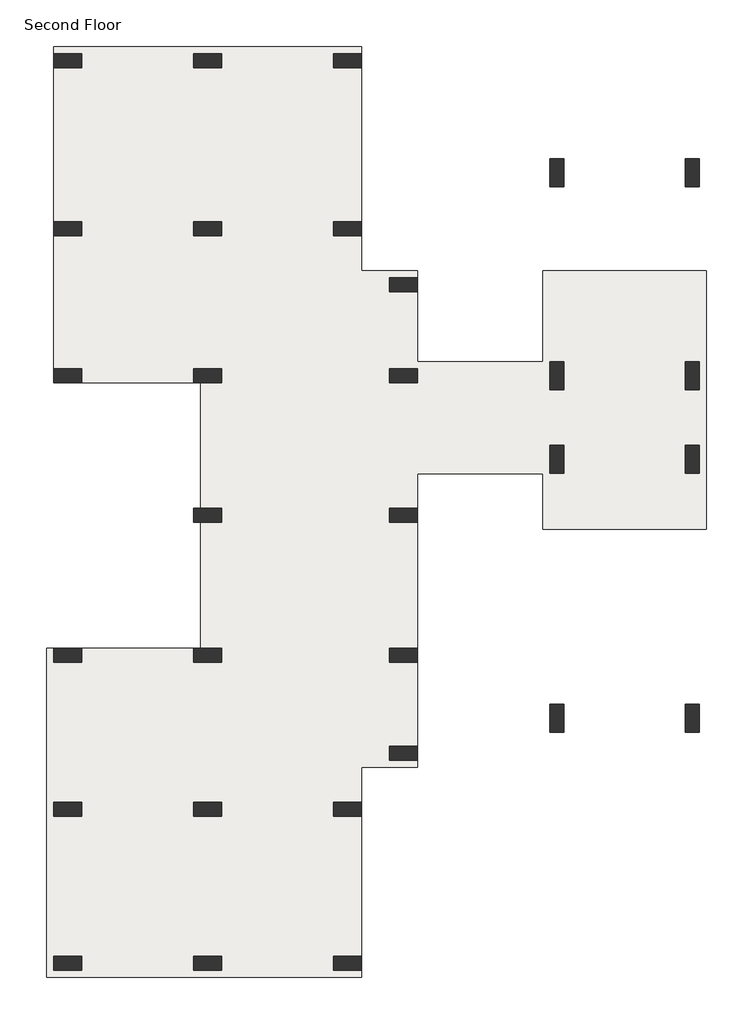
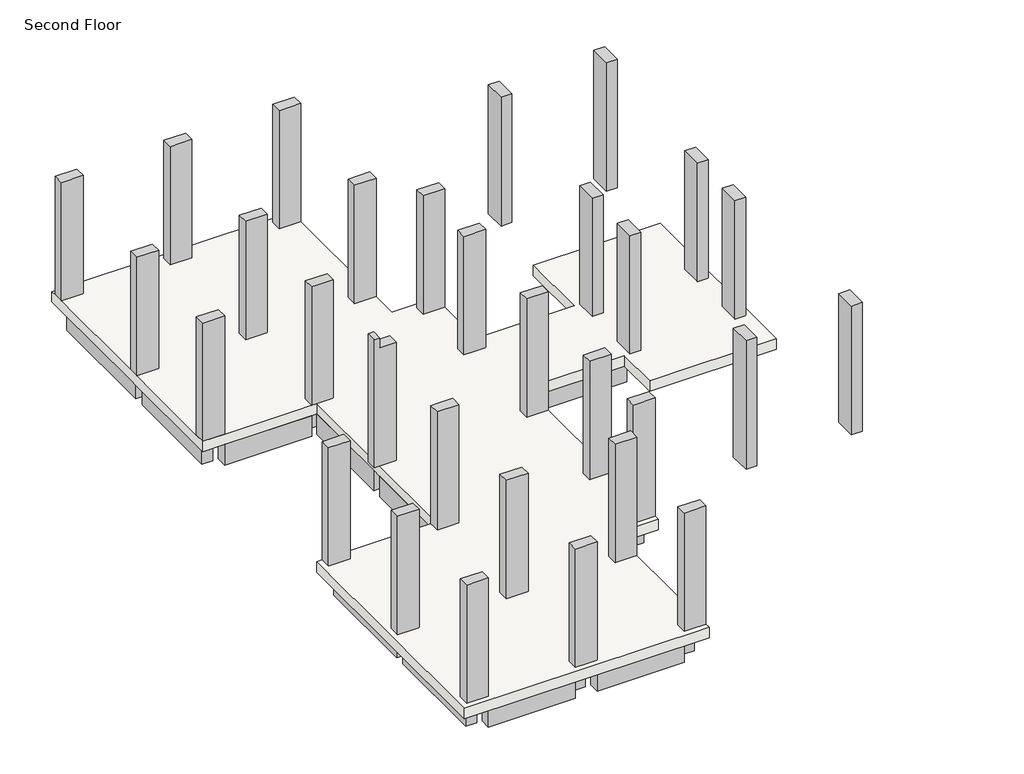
# One storey: 37 beams, 30 columns, 1 slab.
"""IFC4 building model written with IfcOpenShell, lengths in millimetres."""

from ifc_helpers import new_model, si_unit, frame, origin, place, context, project, spatial, polyline, outline, extrude, faceted_brep, element, save

model = new_model("IFC4")

# Units and contexts
model_context = context("Model", 3, world=origin())
ifc_project = project(units=[si_unit("LENGTHUNIT", "METRE", prefix="MILLI")], contexts=[model_context])

# Site, building, storey
site = spatial("IfcSite", under=ifc_project)
building = spatial("IfcBuilding", under=site)
storey = spatial("IfcBuildingStorey", under=building, Name="Second Floor", Elevation=3810.0)

# Beams
placement = place(None, origin())
element("IfcBeam", 1, ObjectType="Concrete-Rectangular Beam : 12 x 24", at=placement, inside=storey, context=model_context, shape_type="SweptSolid", body=[
    extrude(outline(polyline([(-28276.2572388, 22716.8740068), (-28276.2572388, 23021.6740068), (-25837.8572388, 23021.6740068), (-25837.8572388, 22716.8740068), (-28276.2572388, 22716.8740068)])), frame((0.0, 0.0, 2895.6), z_axis=(0.0, 0.0, 1.0), x_axis=(1.0, 0.0, 0.0)), (0.0, 0.0, 1.0), 609.6),
])
element("IfcBeam", 2, ObjectType="Concrete-Rectangular Beam : 12 x 24", at=placement, inside=storey, context=model_context, shape_type="SweptSolid", body=[
    extrude(outline(polyline([(-25228.2572388, 22716.8740068), (-25228.2572388, 23021.6740068), (-22789.8572388, 23021.6740068), (-22789.8572388, 22716.8740068), (-25228.2572388, 22716.8740068)])), frame((0.0, 0.0, 2895.6), z_axis=(0.0, 0.0, 1.0), x_axis=(1.0, 0.0, 0.0)), (0.0, 0.0, 1.0), 609.6),
])
element("IfcBeam", 3, ObjectType="Concrete-Rectangular Beam : 12 x 24", at=placement, inside=storey, context=model_context, shape_type="SweptSolid", body=[
    extrude(outline(polyline([(-22637.4572388, 22716.8740068), (-22332.6572388, 22716.8740068), (-22332.6572388, 19364.0740068), (-22637.4572388, 19364.0740068), (-22637.4572388, 22716.8740068)])), frame((0.0, 0.0, 2895.6), z_axis=(0.0, 0.0, 1.0), x_axis=(1.0, 0.0, 0.0)), (0.0, 0.0, 1.0), 609.6),
])
element("IfcBeam", 4, ObjectType="Concrete-Rectangular Beam : 12 x 24", at=placement, inside=storey, context=model_context, shape_type="SweptSolid", body=[
    extrude(outline(polyline([(-25228.2572388, 19059.2740068), (-25228.2572388, 19364.0740068), (-22789.8572388, 19364.0740068), (-22789.8572388, 19059.2740068), (-25228.2572388, 19059.2740068)])), frame((0.0, 0.0, 2895.6), z_axis=(0.0, 0.0, 1.0), x_axis=(1.0, 0.0, 0.0)), (0.0, 0.0, 1.0), 609.6),
])
element("IfcBeam", 5, ObjectType="Concrete-Rectangular Beam : 12 x 24", at=placement, inside=storey, context=model_context, shape_type="SweptSolid", body=[
    extrude(outline(polyline([(-25380.6572388, 22716.8740068), (-25380.6572388, 19364.0740068), (-25685.4572388, 19364.0740068), (-25685.4572388, 22716.8740068), (-25380.6572388, 22716.8740068)])), frame((0.0, 0.0, 2895.6), z_axis=(0.0, 0.0, 1.0), x_axis=(1.0, 0.0, 0.0)), (0.0, 0.0, 1.0), 609.6),
])
element("IfcBeam", 6, ObjectType="Concrete-Rectangular Beam : 12 x 24", at=placement, inside=storey, context=model_context, shape_type="SweptSolid", body=[
    extrude(outline(polyline([(-28276.2572388, 19059.2740068), (-28276.2572388, 19364.0740068), (-25837.8572388, 19364.0740068), (-25837.8572388, 19059.2740068), (-28276.2572388, 19059.2740068)])), frame((0.0, 0.0, 2895.6), z_axis=(0.0, 0.0, 1.0), x_axis=(1.0, 0.0, 0.0)), (0.0, 0.0, 1.0), 609.6),
])
element("IfcBeam", 7, ObjectType="Concrete-Rectangular Beam : 12 x 24", at=placement, inside=storey, context=model_context, shape_type="SweptSolid", body=[
    extrude(outline(polyline([(-28733.4572388, 22716.8740068), (-28428.6572388, 22716.8740068), (-28428.6572388, 19364.0740068), (-28733.4572388, 19364.0740068), (-28733.4572388, 22716.8740068)])), frame((0.0, 0.0, 2895.6), z_axis=(0.0, 0.0, 1.0), x_axis=(1.0, 0.0, 0.0)), (0.0, 0.0, 1.0), 609.6),
])
element("IfcBeam", 8, ObjectType="Concrete-Rectangular Beam : 12 x 24", at=placement, inside=storey, context=model_context, shape_type="SweptSolid", body=[
    extrude(outline(polyline([(-28733.4572388, 19059.2740068), (-28428.6572388, 19059.2740068), (-28428.6572388, 16163.6740068), (-28733.4572388, 16163.6740068), (-28733.4572388, 19059.2740068)])), frame((0.0, 0.0, 2895.6), z_axis=(0.0, 0.0, 1.0), x_axis=(1.0, 0.0, 0.0)), (0.0, 0.0, 1.0), 609.6),
])
element("IfcBeam", 9, ObjectType="Concrete-Rectangular Beam : 12 x 24", at=placement, inside=storey, context=model_context, shape_type="SweptSolid", body=[
    extrude(outline(polyline([(-28276.2572388, 15858.8740068), (-28276.2572388, 16163.6740068), (-25837.8572388, 16163.6740068), (-25837.8572388, 15858.8740068), (-28276.2572388, 15858.8740068)])), frame((0.0, 0.0, 2895.6), z_axis=(0.0, 0.0, 1.0), x_axis=(1.0, 0.0, 0.0)), (0.0, 0.0, 1.0), 609.6),
])
element("IfcBeam", 10, ObjectType="Concrete-Rectangular Beam : 12 x 24", at=placement, inside=storey, context=model_context, shape_type="SweptSolid", body=[
    extrude(outline(polyline([(-25685.4572388, 19059.2740068), (-25380.6572388, 19059.2740068), (-25380.6572388, 16163.6740068), (-25685.4572388, 16163.6740068), (-25685.4572388, 19059.2740068)])), frame((0.0, 0.0, 2895.6), z_axis=(0.0, 0.0, 1.0), x_axis=(1.0, 0.0, 0.0)), (0.0, 0.0, 1.0), 609.6),
])
element("IfcBeam", 11, ObjectType="Concrete-Rectangular Beam : 12 x 24", at=placement, inside=storey, context=model_context, shape_type="SweptSolid", body=[
    extrude(outline(polyline([(-25228.2572388, 15858.8740068), (-25228.2572388, 16163.6740068), (-21570.6572388, 16163.6740068), (-21570.6572388, 15858.8740068), (-25228.2572388, 15858.8740068)])), frame((0.0, 0.0, 2895.6), z_axis=(0.0, 0.0, 1.0), x_axis=(1.0, 0.0, 0.0)), (0.0, 0.0, 1.0), 609.6),
])
element("IfcBeam", 12, ObjectType="Concrete-Rectangular Beam : 12 x 24", at=placement, inside=storey, context=model_context, shape_type="SweptSolid", body=[
    extrude(outline(polyline([(-21418.2572388, 17840.0740068), (-21113.4572388, 17840.0740068), (-21113.4572388, 16163.6740068), (-21418.2572388, 16163.6740068), (-21418.2572388, 17840.0740068)])), frame((0.0, 0.0, 2895.6), z_axis=(0.0, 0.0, 1.0), x_axis=(1.0, 0.0, 0.0)), (0.0, 0.0, 1.0), 609.6),
])
element("IfcBeam", 13, ObjectType="Concrete-Rectangular Beam : 12 x 24", at=placement, inside=storey, context=model_context, shape_type="Brep", body=[
    faceted_brep([(-22637.4572388, 18144.8740068, 3505.2), (-22637.4572388, 17840.0740068, 3505.2), (-21570.6572388, 17840.0740068, 3505.2), (-21570.6572388, 18144.8740068, 3505.2), (-22332.6572388, 18144.8740068, 3505.2), (-22637.4572388, 18144.8740068, 2895.6), (-21570.6572388, 18144.8740068, 2895.6), (-22332.6572388, 18144.8740068, 2895.6), (-22637.4572388, 17840.0740068, 2895.6), (-21570.6572388, 17840.0740068, 2895.6)], [[[0, 1, 2, 3, 4]], [[5, 0, 4, 3, 6, 7]], [[8, 5, 7, 6, 9]], [[1, 8, 9, 2]], [[3, 2, 9, 6]], [[1, 0, 5, 8]]]),
])
element("IfcBeam", 14, ObjectType="Concrete-Rectangular Beam : 12 x 24", at=placement, inside=storey, context=model_context, shape_type="SweptSolid", body=[
    extrude(outline(polyline([(-22637.4572388, 19059.2740068), (-22332.6572388, 19059.2740068), (-22332.6572388, 18144.8740068), (-22637.4572388, 18144.8740068), (-22637.4572388, 19059.2740068)])), frame((0.0, 0.0, 2895.6), z_axis=(0.0, 0.0, 1.0), x_axis=(1.0, 0.0, 0.0)), (0.0, 0.0, 1.0), 609.6),
])
element("IfcBeam", 15, ObjectType="Concrete-Rectangular Beam : 12 x 24", at=placement, inside=storey, context=model_context, shape_type="SweptSolid", body=[
    extrude(outline(polyline([(-20961.0572388, 15858.8740068), (-20961.0572388, 16163.6740068), (-18065.4572388, 16163.6740068), (-18065.4572388, 15858.8740068), (-20961.0572388, 15858.8740068)])), frame((0.0, 0.0, 2895.6), z_axis=(0.0, 0.0, 1.0), x_axis=(1.0, 0.0, 0.0)), (0.0, 0.0, 1.0), 609.6),
])
element("IfcBeam", 16, ObjectType="Concrete-Rectangular Beam : 12 x 24", at=placement, inside=storey, context=model_context, shape_type="SweptSolid", body=[
    extrude(outline(polyline([(-17760.6572388, 15858.8740068), (-17760.6572388, 16163.6740068), (-15119.0572388, 16163.6740068), (-15119.0572388, 15858.8740068), (-17760.6572388, 15858.8740068)])), frame((0.0, 0.0, 2895.6), z_axis=(0.0, 0.0, 1.0), x_axis=(1.0, 0.0, 0.0)), (0.0, 0.0, 1.0), 609.6),
])
element("IfcBeam", 17, ObjectType="Concrete-Rectangular Beam : 12 x 24", at=placement, inside=storey, context=model_context, shape_type="Brep", body=[
    faceted_brep([(-21113.4572388, 15858.8740068, 3505.2), (-21418.2572388, 15858.8740068, 3505.2), (-21418.2572388, 13115.6740068, 3505.2), (-21113.4572388, 13115.6740068, 3505.2), (-21113.4572388, 14030.0740068, 3505.2), (-21113.4572388, 14334.8740068, 3505.2), (-21113.4572388, 15858.8740068, 2895.6), (-21113.4572388, 13115.6740068, 2895.6), (-21113.4572388, 14030.0740068, 2895.6), (-21113.4572388, 14334.8740068, 2895.6), (-21418.2572388, 15858.8740068, 2895.6), (-21418.2572388, 13115.6740068, 2895.6)], [[[0, 1, 2, 3, 4, 5]], [[6, 0, 5, 4, 3, 7, 8, 9]], [[10, 6, 9, 8, 7, 11]], [[1, 10, 11, 2]], [[10, 1, 0, 6]], [[3, 2, 11, 7]]]),
])
element("IfcBeam", 18, ObjectType="Concrete-Rectangular Beam : 12 x 24", at=placement, inside=storey, context=model_context, shape_type="SweptSolid", body=[
    extrude(outline(polyline([(-18065.4572388, 14334.8740068), (-18065.4572388, 14030.0740068), (-21113.4572388, 14030.0740068), (-21113.4572388, 14334.8740068), (-18065.4572388, 14334.8740068)])), frame((0.0, 0.0, 2895.6), z_axis=(0.0, 0.0, 1.0), x_axis=(1.0, 0.0, 0.0)), (0.0, 0.0, 1.0), 609.6),
])
element("IfcBeam", 19, ObjectType="Concrete-Rectangular Beam : 12 x 24", at=placement, inside=storey, context=model_context, shape_type="SweptSolid", body=[
    extrude(outline(polyline([(-17760.6572388, 14030.0740068), (-17760.6572388, 14334.8740068), (-15119.0572388, 14334.8740068), (-15119.0572388, 14030.0740068), (-17760.6572388, 14030.0740068)])), frame((0.0, 0.0, 2895.6), z_axis=(0.0, 0.0, 1.0), x_axis=(1.0, 0.0, 0.0)), (0.0, 0.0, 1.0), 609.6),
])
element("IfcBeam", 20, ObjectType="Concrete-Rectangular Beam : 12 x 24", at=placement, inside=storey, context=model_context, shape_type="SweptSolid", body=[
    extrude(outline(polyline([(-25685.4572388, 15858.8740068), (-25380.6572388, 15858.8740068), (-25380.6572388, 13115.6740068), (-25685.4572388, 13115.6740068), (-25685.4572388, 15858.8740068)])), frame((0.0, 0.0, 2895.6), z_axis=(0.0, 0.0, 1.0), x_axis=(1.0, 0.0, 0.0)), (0.0, 0.0, 1.0), 609.6),
])
element("IfcBeam", 21, ObjectType="Concrete-Rectangular Beam : 12 x 24", at=placement, inside=storey, context=model_context, shape_type="SweptSolid", body=[
    extrude(outline(polyline([(-25228.2572388, 12810.8740068), (-25228.2572388, 13115.6740068), (-21570.6572388, 13115.6740068), (-21570.6572388, 12810.8740068), (-25228.2572388, 12810.8740068)])), frame((0.0, 0.0, 2895.6), z_axis=(0.0, 0.0, 1.0), x_axis=(1.0, 0.0, 0.0)), (0.0, 0.0, 1.0), 609.6),
])
element("IfcBeam", 22, ObjectType="Concrete-Rectangular Beam : 12 x 24", at=placement, inside=storey, context=model_context, shape_type="SweptSolid", body=[
    extrude(outline(polyline([(-25685.4572388, 12810.8740068), (-25380.6572388, 12810.8740068), (-25380.6572388, 10067.6740068), (-25685.4572388, 10067.6740068), (-25685.4572388, 12810.8740068)])), frame((0.0, 0.0, 2895.6), z_axis=(0.0, 0.0, 1.0), x_axis=(1.0, 0.0, 0.0)), (0.0, 0.0, 1.0), 609.6),
])
element("IfcBeam", 23, ObjectType="Concrete-Rectangular Beam : 12 x 24", at=placement, inside=storey, context=model_context, shape_type="SweptSolid", body=[
    extrude(outline(polyline([(-25228.2572388, 9762.8740068), (-25228.2572388, 10067.6740068), (-21570.6572388, 10067.6740068), (-21570.6572388, 9762.8740068), (-25228.2572388, 9762.8740068)])), frame((0.0, 0.0, 2895.6), z_axis=(0.0, 0.0, 1.0), x_axis=(1.0, 0.0, 0.0)), (0.0, 0.0, 1.0), 609.6),
])
element("IfcBeam", 24, ObjectType="Concrete-Rectangular Beam : 12 x 24", at=placement, inside=storey, context=model_context, shape_type="SweptSolid", body=[
    extrude(outline(polyline([(-21113.4572388, 10067.6740068), (-21418.2572388, 10067.6740068), (-21418.2572388, 12810.8740068), (-21113.4572388, 12810.8740068), (-21113.4572388, 10067.6740068)])), frame((0.0, 0.0, 2895.6), z_axis=(0.0, 0.0, 1.0), x_axis=(1.0, 0.0, 0.0)), (0.0, 0.0, 1.0), 609.6),
])
element("IfcBeam", 25, ObjectType="Concrete-Rectangular Beam : 12 x 24", at=placement, inside=storey, context=model_context, shape_type="SweptSolid", body=[
    extrude(outline(polyline([(-28276.2572388, 9762.8740068), (-28276.2572388, 10067.6740068), (-25837.8572388, 10067.6740068), (-25837.8572388, 9762.8740068), (-28276.2572388, 9762.8740068)])), frame((0.0, 0.0, 2895.6), z_axis=(0.0, 0.0, 1.0), x_axis=(1.0, 0.0, 0.0)), (0.0, 0.0, 1.0), 609.6),
])
element("IfcBeam", 26, ObjectType="Concrete-Rectangular Beam : 12 x 24", at=placement, inside=storey, context=model_context, shape_type="SweptSolid", body=[
    extrude(outline(polyline([(-28733.4572388, 9762.8740068), (-28428.6572388, 9762.8740068), (-28428.6572388, 6714.8740068), (-28733.4572388, 6714.8740068), (-28733.4572388, 9762.8740068)])), frame((0.0, 0.0, 2895.6), z_axis=(0.0, 0.0, 1.0), x_axis=(1.0, 0.0, 0.0)), (0.0, 0.0, 1.0), 609.6),
])
element("IfcBeam", 27, ObjectType="Concrete-Rectangular Beam : 12 x 24", at=placement, inside=storey, context=model_context, shape_type="SweptSolid", body=[
    extrude(outline(polyline([(-28276.2572388, 6410.0740068), (-28276.2572388, 6714.8740068), (-25837.8572388, 6714.8740068), (-25837.8572388, 6410.0740068), (-28276.2572388, 6410.0740068)])), frame((0.0, 0.0, 2895.6), z_axis=(0.0, 0.0, 1.0), x_axis=(1.0, 0.0, 0.0)), (0.0, 0.0, 1.0), 609.6),
])
element("IfcBeam", 28, ObjectType="Concrete-Rectangular Beam : 12 x 24", at=placement, inside=storey, context=model_context, shape_type="SweptSolid", body=[
    extrude(outline(polyline([(-25685.4572388, 9762.8740068), (-25380.6572388, 9762.8740068), (-25380.6572388, 6714.8740068), (-25685.4572388, 6714.8740068), (-25685.4572388, 9762.8740068)])), frame((0.0, 0.0, 2895.6), z_axis=(0.0, 0.0, 1.0), x_axis=(1.0, 0.0, 0.0)), (0.0, 0.0, 1.0), 609.6),
])
element("IfcBeam", 29, ObjectType="Concrete-Rectangular Beam : 12 x 24", at=placement, inside=storey, context=model_context, shape_type="SweptSolid", body=[
    extrude(outline(polyline([(-25228.2572388, 6410.0740068), (-25228.2572388, 6714.8740068), (-22789.8572388, 6714.8740068), (-22789.8572388, 6410.0740068), (-25228.2572388, 6410.0740068)])), frame((0.0, 0.0, 2895.6), z_axis=(0.0, 0.0, 1.0), x_axis=(1.0, 0.0, 0.0)), (0.0, 0.0, 1.0), 609.6),
])
element("IfcBeam", 30, ObjectType="Concrete-Rectangular Beam : 12 x 24", at=placement, inside=storey, context=model_context, shape_type="SweptSolid", body=[
    extrude(outline(polyline([(-21418.2572388, 9762.8740068), (-21113.4572388, 9762.8740068), (-21113.4572388, 7934.0740068), (-21418.2572388, 7934.0740068), (-21418.2572388, 9762.8740068)])), frame((0.0, 0.0, 2895.6), z_axis=(0.0, 0.0, 1.0), x_axis=(1.0, 0.0, 0.0)), (0.0, 0.0, 1.0), 609.6),
])
element("IfcBeam", 31, ObjectType="Concrete-Rectangular Beam : 12 x 24", at=placement, inside=storey, context=model_context, shape_type="Brep", body=[
    faceted_brep([(-22637.4572388, 7934.0740068, 3505.2), (-22637.4572388, 7629.2740068, 3505.2), (-22332.6572388, 7629.2740068, 3505.2), (-21570.6572388, 7629.2740068, 3505.2), (-21570.6572388, 7934.0740068, 3505.2), (-22637.4572388, 7934.0740068, 2895.6), (-21570.6572388, 7934.0740068, 2895.6), (-22637.4572388, 7629.2740068, 2895.6), (-21570.6572388, 7629.2740068, 2895.6), (-22332.6572388, 7629.2740068, 2895.6)], [[[0, 1, 2, 3, 4]], [[5, 0, 4, 6]], [[7, 5, 6, 8, 9]], [[1, 7, 9, 8, 3, 2]], [[4, 3, 8, 6]], [[1, 0, 5, 7]]]),
])
element("IfcBeam", 32, ObjectType="Concrete-Rectangular Beam : 12 x 24", at=placement, inside=storey, context=model_context, shape_type="SweptSolid", body=[
    extrude(outline(polyline([(-22332.6572388, 6714.8740068), (-22637.4572388, 6714.8740068), (-22637.4572388, 7629.2740068), (-22332.6572388, 7629.2740068), (-22332.6572388, 6714.8740068)])), frame((0.0, 0.0, 2895.6), z_axis=(0.0, 0.0, 1.0), x_axis=(1.0, 0.0, 0.0)), (0.0, 0.0, 1.0), 609.6),
])
element("IfcBeam", 33, ObjectType="Concrete-Rectangular Beam : 12 x 24", at=placement, inside=storey, context=model_context, shape_type="SweptSolid", body=[
    extrude(outline(polyline([(-22637.4572388, 6410.0740068), (-22332.6572388, 6410.0740068), (-22332.6572388, 3362.0740068), (-22637.4572388, 3362.0740068), (-22637.4572388, 6410.0740068)])), frame((0.0, 0.0, 2895.6), z_axis=(0.0, 0.0, 1.0), x_axis=(1.0, 0.0, 0.0)), (0.0, 0.0, 1.0), 609.6),
])
element("IfcBeam", 34, ObjectType="Concrete-Rectangular Beam : 12 x 24", at=placement, inside=storey, context=model_context, shape_type="SweptSolid", body=[
    extrude(outline(polyline([(-25228.2572388, 3057.2740068), (-25228.2572388, 3362.0740068), (-22789.8572388, 3362.0740068), (-22789.8572388, 3057.2740068), (-25228.2572388, 3057.2740068)])), frame((0.0, 0.0, 2895.6), z_axis=(0.0, 0.0, 1.0), x_axis=(1.0, 0.0, 0.0)), (0.0, 0.0, 1.0), 609.6),
])
element("IfcBeam", 35, ObjectType="Concrete-Rectangular Beam : 12 x 24", at=placement, inside=storey, context=model_context, shape_type="SweptSolid", body=[
    extrude(outline(polyline([(-25685.4572388, 6410.0740068), (-25380.6572388, 6410.0740068), (-25380.6572388, 3362.0740068), (-25685.4572388, 3362.0740068), (-25685.4572388, 6410.0740068)])), frame((0.0, 0.0, 2895.6), z_axis=(0.0, 0.0, 1.0), x_axis=(1.0, 0.0, 0.0)), (0.0, 0.0, 1.0), 609.6),
])
element("IfcBeam", 36, ObjectType="Concrete-Rectangular Beam : 12 x 24", at=placement, inside=storey, context=model_context, shape_type="SweptSolid", body=[
    extrude(outline(polyline([(-28733.4572388, 6410.0740068), (-28428.6572388, 6410.0740068), (-28428.6572388, 3362.0740068), (-28733.4572388, 3362.0740068), (-28733.4572388, 6410.0740068)])), frame((0.0, 0.0, 2895.6), z_axis=(0.0, 0.0, 1.0), x_axis=(1.0, 0.0, 0.0)), (0.0, 0.0, 1.0), 609.6),
])
element("IfcBeam", 37, ObjectType="Concrete-Rectangular Beam : 12 x 24", at=placement, inside=storey, context=model_context, shape_type="SweptSolid", body=[
    extrude(outline(polyline([(-28276.2572388, 3057.2740068), (-28276.2572388, 3362.0740068), (-25837.8572388, 3362.0740068), (-25837.8572388, 3057.2740068), (-28276.2572388, 3057.2740068)])), frame((0.0, 0.0, 2895.6), z_axis=(0.0, 0.0, 1.0), x_axis=(1.0, 0.0, 0.0)), (0.0, 0.0, 1.0), 609.6),
])

# Columns
element("IfcColumn", 38, ObjectType="Concrete-Rectangular-Column : 12 x 24", at=placement, inside=storey, context=model_context, shape_type="SweptSolid", body=[
    extrude(outline(polyline([(-28885.8572388, 23021.6740068), (-28276.2572388, 23021.6740068), (-28276.2572388, 22716.8740068), (-28885.8572388, 22716.8740068), (-28885.8572388, 23021.6740068)])), frame((0.0, 0.0, 3810.0), z_axis=(0.0, 0.0, 1.0), x_axis=(1.0, 0.0, 0.0)), (0.0, 0.0, 1.0), 3505.2),
])
element("IfcColumn", 39, ObjectType="Concrete-Rectangular-Column : 12 x 24", at=placement, inside=storey, context=model_context, shape_type="SweptSolid", body=[
    extrude(outline(polyline([(-25837.8572388, 23021.6740068), (-25228.2572388, 23021.6740068), (-25228.2572388, 22716.8740068), (-25837.8572388, 22716.8740068), (-25837.8572388, 23021.6740068)])), frame((0.0, 0.0, 3810.0), z_axis=(0.0, 0.0, 1.0), x_axis=(1.0, 0.0, 0.0)), (0.0, 0.0, 1.0), 3505.2),
])
element("IfcColumn", 40, ObjectType="Concrete-Rectangular-Column : 12 x 24", at=placement, inside=storey, context=model_context, shape_type="SweptSolid", body=[
    extrude(outline(polyline([(-22789.8572388, 23021.6740068), (-22180.2572388, 23021.6740068), (-22180.2572388, 22716.8740068), (-22789.8572388, 22716.8740068), (-22789.8572388, 23021.6740068)])), frame((0.0, 0.0, 3810.0), z_axis=(0.0, 0.0, 1.0), x_axis=(1.0, 0.0, 0.0)), (0.0, 0.0, 1.0), 3505.2),
])
element("IfcColumn", 41, ObjectType="Concrete-Rectangular-Column : 12 x 24", at=placement, inside=storey, context=model_context, shape_type="SweptSolid", body=[
    extrude(outline(polyline([(-28885.8572388, 19364.0740068), (-28276.2572388, 19364.0740068), (-28276.2572388, 19059.2740068), (-28885.8572388, 19059.2740068), (-28885.8572388, 19364.0740068)])), frame((0.0, 0.0, 3810.0), z_axis=(0.0, 0.0, 1.0), x_axis=(1.0, 0.0, 0.0)), (0.0, 0.0, 1.0), 3505.2),
])
element("IfcColumn", 42, ObjectType="Concrete-Rectangular-Column : 12 x 24", at=placement, inside=storey, context=model_context, shape_type="SweptSolid", body=[
    extrude(outline(polyline([(-25837.8572388, 19364.0740068), (-25228.2572388, 19364.0740068), (-25228.2572388, 19059.2740068), (-25837.8572388, 19059.2740068), (-25837.8572388, 19364.0740068)])), frame((0.0, 0.0, 3810.0), z_axis=(0.0, 0.0, 1.0), x_axis=(1.0, 0.0, 0.0)), (0.0, 0.0, 1.0), 3505.2),
])
element("IfcColumn", 43, ObjectType="Concrete-Rectangular-Column : 12 x 24", at=placement, inside=storey, context=model_context, shape_type="SweptSolid", body=[
    extrude(outline(polyline([(-22789.8572388, 19364.0740068), (-22180.2572388, 19364.0740068), (-22180.2572388, 19059.2740068), (-22789.8572388, 19059.2740068), (-22789.8572388, 19364.0740068)])), frame((0.0, 0.0, 3810.0), z_axis=(0.0, 0.0, 1.0), x_axis=(1.0, 0.0, 0.0)), (0.0, 0.0, 1.0), 3505.2),
])
element("IfcColumn", 44, ObjectType="Concrete-Rectangular-Column : 12 x 24", at=placement, inside=storey, context=model_context, shape_type="SweptSolid", body=[
    extrude(outline(polyline([(-21570.6572388, 18144.8740068), (-20961.0572388, 18144.8740068), (-20961.0572388, 17840.0740068), (-21570.6572388, 17840.0740068), (-21570.6572388, 18144.8740068)])), frame((0.0, 0.0, 3810.0), z_axis=(0.0, 0.0, 1.0), x_axis=(1.0, 0.0, 0.0)), (0.0, 0.0, 1.0), 3505.2),
])
element("IfcColumn", 45, ObjectType="Concrete-Rectangular-Column : 12 x 24", at=placement, inside=storey, context=model_context, shape_type="SweptSolid", body=[
    extrude(outline(polyline([(-28885.8572388, 16163.6740068), (-28276.2572388, 16163.6740068), (-28276.2572388, 15858.8740068), (-28885.8572388, 15858.8740068), (-28885.8572388, 16163.6740068)])), frame((0.0, 0.0, 3810.0), z_axis=(0.0, 0.0, 1.0), x_axis=(1.0, 0.0, 0.0)), (0.0, 0.0, 1.0), 3505.2),
])
element("IfcColumn", 46, ObjectType="Concrete-Rectangular-Column : 12 x 24", at=placement, inside=storey, context=model_context, shape_type="Brep", body=[
    faceted_brep([(-25837.8572388, 16163.6740068, 3810.0), (-25228.2572388, 16163.6740068, 3810.0), (-25228.2572388, 15858.8740068, 3810.0), (-25685.4572388, 15858.8740068, 3810.0), (-25837.8572388, 15858.8740068, 3810.0), (-25837.8572388, 16163.6740068, 7315.2), (-25228.2572388, 16163.6740068, 7315.2), (-25228.2572388, 15858.8740068, 7315.2), (-25685.4572388, 15858.8740068, 7315.2), (-25837.8572388, 15858.8740068, 7315.2)], [[[0, 1, 2, 3, 4]], [[1, 0, 5, 6]], [[2, 1, 6, 7]], [[4, 3, 2, 7, 8, 9]], [[0, 4, 9, 5]], [[6, 5, 9, 8, 7]]]),
])
element("IfcColumn", 47, ObjectType="Concrete-Rectangular-Column : 12 x 24", at=placement, inside=storey, context=model_context, shape_type="SweptSolid", body=[
    extrude(outline(polyline([(-21570.6572388, 16163.6740068), (-20961.0572388, 16163.6740068), (-20961.0572388, 15858.8740068), (-21570.6572388, 15858.8740068), (-21570.6572388, 16163.6740068)])), frame((0.0, 0.0, 3810.0), z_axis=(0.0, 0.0, 1.0), x_axis=(1.0, 0.0, 0.0)), (0.0, 0.0, 1.0), 3505.2),
])
element("IfcColumn", 48, ObjectType="Concrete-Rectangular-Column : 12 x 24", at=placement, inside=storey, context=model_context, shape_type="SweptSolid", body=[
    extrude(outline(polyline([(-18065.4572388, 15706.4740068), (-18065.4572388, 16316.0740068), (-17760.6572388, 16316.0740068), (-17760.6572388, 15706.4740068), (-18065.4572388, 15706.4740068)])), frame((0.0, 0.0, 3810.0), z_axis=(0.0, 0.0, 1.0), x_axis=(1.0, 0.0, 0.0)), (0.0, 0.0, 1.0), 3505.2),
])
element("IfcColumn", 49, ObjectType="Concrete-Rectangular-Column : 12 x 24", at=placement, inside=storey, context=model_context, shape_type="SweptSolid", body=[
    extrude(outline(polyline([(-15119.0572388, 15706.4740068), (-15119.0572388, 16316.0740068), (-14814.2572388, 16316.0740068), (-14814.2572388, 15706.4740068), (-15119.0572388, 15706.4740068)])), frame((0.0, 0.0, 3810.0), z_axis=(0.0, 0.0, 1.0), x_axis=(1.0, 0.0, 0.0)), (0.0, 0.0, 1.0), 3505.2),
])
element("IfcColumn", 50, ObjectType="Concrete-Rectangular-Column : 12 x 24", at=placement, inside=storey, context=model_context, shape_type="SweptSolid", body=[
    extrude(outline(polyline([(-18065.4572388, 13877.6740068), (-18065.4572388, 14487.2740068), (-17760.6572388, 14487.2740068), (-17760.6572388, 13877.6740068), (-18065.4572388, 13877.6740068)])), frame((0.0, 0.0, 3810.0), z_axis=(0.0, 0.0, 1.0), x_axis=(1.0, 0.0, 0.0)), (0.0, 0.0, 1.0), 3505.2),
])
element("IfcColumn", 51, ObjectType="Concrete-Rectangular-Column : 12 x 24", at=placement, inside=storey, context=model_context, shape_type="SweptSolid", body=[
    extrude(outline(polyline([(-15119.0572388, 13877.6740068), (-15119.0572388, 14487.2740068), (-14814.2572388, 14487.2740068), (-14814.2572388, 13877.6740068), (-15119.0572388, 13877.6740068)])), frame((0.0, 0.0, 3810.0), z_axis=(0.0, 0.0, 1.0), x_axis=(1.0, 0.0, 0.0)), (0.0, 0.0, 1.0), 3505.2),
])
element("IfcColumn", 52, ObjectType="Concrete-Rectangular-Column : 12 x 24", at=placement, inside=storey, context=model_context, shape_type="SweptSolid", body=[
    extrude(outline(polyline([(3810.0, -25837.8572388), (3810.0, -25228.2572388), (7315.2, -25228.2572388), (7315.2, -25685.4572388), (7594.6, -25685.4572388), (7594.6, -25837.8572388), (3810.0, -25837.8572388)])), frame((0.0, 12810.8740068, 0.0), z_axis=(0.0, 1.0, 0.0), x_axis=(0.0, 0.0, 1.0)), (0.0, 0.0, 1.0), 304.8),
])
element("IfcColumn", 53, ObjectType="Concrete-Rectangular-Column : 12 x 24", at=placement, inside=storey, context=model_context, shape_type="SweptSolid", body=[
    extrude(outline(polyline([(-21570.6572388, 13115.6740068), (-20961.0572388, 13115.6740068), (-20961.0572388, 12810.8740068), (-21570.6572388, 12810.8740068), (-21570.6572388, 13115.6740068)])), frame((0.0, 0.0, 3810.0), z_axis=(0.0, 0.0, 1.0), x_axis=(1.0, 0.0, 0.0)), (0.0, 0.0, 1.0), 3505.2),
])
element("IfcColumn", 54, ObjectType="Concrete-Rectangular-Column : 12 x 24", at=placement, inside=storey, context=model_context, shape_type="SweptSolid", body=[
    extrude(outline(polyline([(-28885.8572388, 10067.6740068), (-28276.2572388, 10067.6740068), (-28276.2572388, 9762.8740068), (-28885.8572388, 9762.8740068), (-28885.8572388, 10067.6740068)])), frame((0.0, 0.0, 3810.0), z_axis=(0.0, 0.0, 1.0), x_axis=(1.0, 0.0, 0.0)), (0.0, 0.0, 1.0), 3505.2),
])
element("IfcColumn", 55, ObjectType="Concrete-Rectangular-Column : 12 x 24", at=placement, inside=storey, context=model_context, shape_type="Brep", body=[
    faceted_brep([(-25837.8572388, 10067.6740068, 3810.0), (-25685.4572388, 10067.6740068, 3810.0), (-25228.2572388, 10067.6740068, 3810.0), (-25228.2572388, 9762.8740068, 3810.0), (-25837.8572388, 9762.8740068, 3810.0), (-25837.8572388, 10067.6740068, 7315.2), (-25685.4572388, 10067.6740068, 7315.2), (-25228.2572388, 10067.6740068, 7315.2), (-25228.2572388, 9762.8740068, 7315.2), (-25837.8572388, 9762.8740068, 7315.2)], [[[0, 1, 2, 3, 4]], [[2, 1, 0, 5, 6, 7]], [[3, 2, 7, 8]], [[4, 3, 8, 9]], [[0, 4, 9, 5]], [[7, 6, 5, 9, 8]]]),
])
element("IfcColumn", 56, ObjectType="Concrete-Rectangular-Column : 12 x 24", at=placement, inside=storey, context=model_context, shape_type="SweptSolid", body=[
    extrude(outline(polyline([(-21570.6572388, 10067.6740068), (-20961.0572388, 10067.6740068), (-20961.0572388, 9762.8740068), (-21570.6572388, 9762.8740068), (-21570.6572388, 10067.6740068)])), frame((0.0, 0.0, 3810.0), z_axis=(0.0, 0.0, 1.0), x_axis=(1.0, 0.0, 0.0)), (0.0, 0.0, 1.0), 3505.2),
])
element("IfcColumn", 57, ObjectType="Concrete-Rectangular-Column : 12 x 24", at=placement, inside=storey, context=model_context, shape_type="SweptSolid", body=[
    extrude(outline(polyline([(-21570.6572388, 7934.0740068), (-20961.0572388, 7934.0740068), (-20961.0572388, 7629.2740068), (-21570.6572388, 7629.2740068), (-21570.6572388, 7934.0740068)])), frame((0.0, 0.0, 3810.0), z_axis=(0.0, 0.0, 1.0), x_axis=(1.0, 0.0, 0.0)), (0.0, 0.0, 1.0), 3505.2),
])
element("IfcColumn", 58, ObjectType="Concrete-Rectangular-Column : 12 x 24", at=placement, inside=storey, context=model_context, shape_type="SweptSolid", body=[
    extrude(outline(polyline([(-28885.8572388, 6714.8740068), (-28276.2572388, 6714.8740068), (-28276.2572388, 6410.0740068), (-28885.8572388, 6410.0740068), (-28885.8572388, 6714.8740068)])), frame((0.0, 0.0, 3810.0), z_axis=(0.0, 0.0, 1.0), x_axis=(1.0, 0.0, 0.0)), (0.0, 0.0, 1.0), 3505.2),
])
element("IfcColumn", 59, ObjectType="Concrete-Rectangular-Column : 12 x 24", at=placement, inside=storey, context=model_context, shape_type="SweptSolid", body=[
    extrude(outline(polyline([(-25837.8572388, 6714.8740068), (-25228.2572388, 6714.8740068), (-25228.2572388, 6410.0740068), (-25837.8572388, 6410.0740068), (-25837.8572388, 6714.8740068)])), frame((0.0, 0.0, 3810.0), z_axis=(0.0, 0.0, 1.0), x_axis=(1.0, 0.0, 0.0)), (0.0, 0.0, 1.0), 3505.2),
])
element("IfcColumn", 60, ObjectType="Concrete-Rectangular-Column : 12 x 24", at=placement, inside=storey, context=model_context, shape_type="SweptSolid", body=[
    extrude(outline(polyline([(-22789.8572388, 6714.8740068), (-22180.2572388, 6714.8740068), (-22180.2572388, 6410.0740068), (-22789.8572388, 6410.0740068), (-22789.8572388, 6714.8740068)])), frame((0.0, 0.0, 3810.0), z_axis=(0.0, 0.0, 1.0), x_axis=(1.0, 0.0, 0.0)), (0.0, 0.0, 1.0), 3505.2),
])
element("IfcColumn", 61, ObjectType="Concrete-Rectangular-Column : 12 x 24", at=placement, inside=storey, context=model_context, shape_type="SweptSolid", body=[
    extrude(outline(polyline([(-28885.8572388, 3362.0740068), (-28276.2572388, 3362.0740068), (-28276.2572388, 3057.2740068), (-28885.8572388, 3057.2740068), (-28885.8572388, 3362.0740068)])), frame((0.0, 0.0, 3810.0), z_axis=(0.0, 0.0, 1.0), x_axis=(1.0, 0.0, 0.0)), (0.0, 0.0, 1.0), 3505.2),
])
element("IfcColumn", 62, ObjectType="Concrete-Rectangular-Column : 12 x 24", at=placement, inside=storey, context=model_context, shape_type="SweptSolid", body=[
    extrude(outline(polyline([(-25837.8572388, 3362.0740068), (-25228.2572388, 3362.0740068), (-25228.2572388, 3057.2740068), (-25837.8572388, 3057.2740068), (-25837.8572388, 3362.0740068)])), frame((0.0, 0.0, 3810.0), z_axis=(0.0, 0.0, 1.0), x_axis=(1.0, 0.0, 0.0)), (0.0, 0.0, 1.0), 3505.2),
])
element("IfcColumn", 63, ObjectType="Concrete-Rectangular-Column : 12 x 24", at=placement, inside=storey, context=model_context, shape_type="SweptSolid", body=[
    extrude(outline(polyline([(-22789.8572388, 3362.0740068), (-22180.2572388, 3362.0740068), (-22180.2572388, 3057.2740068), (-22789.8572388, 3057.2740068), (-22789.8572388, 3362.0740068)])), frame((0.0, 0.0, 3810.0), z_axis=(0.0, 0.0, 1.0), x_axis=(1.0, 0.0, 0.0)), (0.0, 0.0, 1.0), 3505.2),
])
element("IfcColumn", 64, ObjectType="Concrete-Rectangular-Column : 12 x 24", at=placement, inside=storey, context=model_context, shape_type="SweptSolid", body=[
    extrude(outline(polyline([(-18065.4572388, 20126.0740068), (-18065.4572388, 20735.6740068), (-17760.6572388, 20735.6740068), (-17760.6572388, 20126.0740068), (-18065.4572388, 20126.0740068)])), frame((0.0, 0.0, 3810.0), z_axis=(0.0, 0.0, 1.0), x_axis=(1.0, 0.0, 0.0)), (0.0, 0.0, 1.0), 3810.0),
])
element("IfcColumn", 65, ObjectType="Concrete-Rectangular-Column : 12 x 24", at=placement, inside=storey, context=model_context, shape_type="SweptSolid", body=[
    extrude(outline(polyline([(-15119.0572388, 20126.0740068), (-15119.0572388, 20735.6740068), (-14814.2572388, 20735.6740068), (-14814.2572388, 20126.0740068), (-15119.0572388, 20126.0740068)])), frame((0.0, 0.0, 3810.0), z_axis=(0.0, 0.0, 1.0), x_axis=(1.0, 0.0, 0.0)), (0.0, 0.0, 1.0), 3810.0),
])
element("IfcColumn", 66, ObjectType="Concrete-Rectangular-Column : 12 x 24", at=placement, inside=storey, context=model_context, shape_type="SweptSolid", body=[
    extrude(outline(polyline([(-18065.4572388, 8238.8740068), (-18065.4572388, 8848.4740068), (-17760.6572388, 8848.4740068), (-17760.6572388, 8238.8740068), (-18065.4572388, 8238.8740068)])), frame((0.0, 0.0, 3810.0), z_axis=(0.0, 0.0, 1.0), x_axis=(1.0, 0.0, 0.0)), (0.0, 0.0, 1.0), 3810.0),
])
element("IfcColumn", 67, ObjectType="Concrete-Rectangular-Column : 12 x 24", at=placement, inside=storey, context=model_context, shape_type="SweptSolid", body=[
    extrude(outline(polyline([(-15119.0572388, 8238.8740068), (-15119.0572388, 8848.4740068), (-14814.2572388, 8848.4740068), (-14814.2572388, 8238.8740068), (-15119.0572388, 8238.8740068)])), frame((0.0, 0.0, 3810.0), z_axis=(0.0, 0.0, 1.0), x_axis=(1.0, 0.0, 0.0)), (0.0, 0.0, 1.0), 3810.0),
])

# Slab
element("IfcSlab", 68, ObjectType="Generic - 12\"", at=placement, inside=storey, context=model_context, shape_type="Brep", body=[
    faceted_brep([(-22180.2572388, 23174.0740068, 3505.2), (-22180.2572388, 23021.6740068, 3505.2), (-22180.2572388, 22716.8740068, 3505.2), (-22180.2572388, 19364.0740068, 3505.2), (-22180.2572388, 19059.2740068, 3505.2), (-22180.2572388, 18297.2740068, 3505.2), (-20961.0572388, 18297.2740068, 3505.2), (-20961.0572388, 18144.8740068, 3505.2), (-20961.0572388, 17840.0740068, 3505.2), (-20961.0572388, 16316.0740068, 3505.2), (-18217.8572388, 16316.0740068, 3505.2), (-18217.8572388, 18297.2740068, 3505.2), (-14661.8572388, 18297.2740068, 3505.2), (-14661.8572388, 12658.4740068, 3505.2), (-18217.8572388, 12658.4740068, 3505.2), (-18217.8572388, 13877.6740068, 3505.2), (-20961.0572388, 13877.6740068, 3505.2), (-20961.0572388, 13115.6740068, 3505.2), (-20961.0572388, 12810.8740068, 3505.2), (-20961.0572388, 10067.6740068, 3505.2), (-20961.0572388, 9762.8740068, 3505.2), (-20961.0572388, 7934.0740068, 3505.2), (-20961.0572388, 7629.2740068, 3505.2), (-20961.0572388, 7476.8740068, 3505.2), (-22180.2572388, 7476.8740068, 3505.2), (-22180.2572388, 6714.8740068, 3505.2), (-22180.2572388, 6410.0740068, 3505.2), (-22180.2572388, 3362.0740068, 3505.2), (-22180.2572388, 3057.2740068, 3505.2), (-22180.2572388, 2904.8740068, 3505.2), (-29038.2572388, 2904.8740068, 3505.2), (-29038.2572388, 10067.6740068, 3505.2), (-28885.8572388, 10067.6740068, 3505.2), (-28276.2572388, 10067.6740068, 3505.2), (-25837.8572388, 10067.6740068, 3505.2), (-25685.4572388, 10067.6740068, 3505.2), (-25685.4572388, 12810.8740068, 3505.2), (-25685.4572388, 13115.6740068, 3505.2), (-25685.4572388, 15858.8740068, 3505.2), (-25837.8572388, 15858.8740068, 3505.2), (-28276.2572388, 15858.8740068, 3505.2), (-28885.8572388, 15858.8740068, 3505.2), (-28885.8572388, 16163.6740068, 3505.2), (-28885.8572388, 19059.2740068, 3505.2), (-28885.8572388, 19364.0740068, 3505.2), (-28885.8572388, 22716.8740068, 3505.2), (-28885.8572388, 23021.6740068, 3505.2), (-28885.8572388, 23174.0740068, 3505.2), (-22180.2572388, 23174.0740068, 3810.0), (-28885.8572388, 23174.0740068, 3810.0), (-28885.8572388, 23021.6740068, 3810.0), (-28885.8572388, 22716.8740068, 3810.0), (-28885.8572388, 19364.0740068, 3810.0), (-28885.8572388, 19059.2740068, 3810.0), (-28885.8572388, 16163.6740068, 3810.0), (-28885.8572388, 15858.8740068, 3810.0), (-28276.2572388, 15858.8740068, 3810.0), (-25837.8572388, 15858.8740068, 3810.0), (-25685.4572388, 15858.8740068, 3810.0), (-25685.4572388, 10067.6740068, 3810.0), (-25837.8572388, 10067.6740068, 3810.0), (-28276.2572388, 10067.6740068, 3810.0), (-28885.8572388, 10067.6740068, 3810.0), (-29038.2572388, 10067.6740068, 3810.0), (-29038.2572388, 2904.8740068, 3810.0), (-22180.2572388, 2904.8740068, 3810.0), (-22180.2572388, 3057.2740068, 3810.0), (-22180.2572388, 3362.0740068, 3810.0), (-22180.2572388, 6410.0740068, 3810.0), (-22180.2572388, 6714.8740068, 3810.0), (-22180.2572388, 7476.8740068, 3810.0), (-20961.0572388, 7476.8740068, 3810.0), (-20961.0572388, 7629.2740068, 3810.0), (-20961.0572388, 7934.0740068, 3810.0), (-20961.0572388, 9762.8740068, 3810.0), (-20961.0572388, 10067.6740068, 3810.0), (-20961.0572388, 12810.8740068, 3810.0), (-20961.0572388, 13115.6740068, 3810.0), (-20961.0572388, 13877.6740068, 3810.0), (-18217.8572388, 13877.6740068, 3810.0), (-18217.8572388, 12658.4740068, 3810.0), (-14661.8572388, 12658.4740068, 3810.0), (-14661.8572388, 18297.2740068, 3810.0), (-18217.8572388, 18297.2740068, 3810.0), (-18217.8572388, 16316.0740068, 3810.0), (-20961.0572388, 16316.0740068, 3810.0), (-20961.0572388, 17840.0740068, 3810.0), (-20961.0572388, 18144.8740068, 3810.0), (-20961.0572388, 18297.2740068, 3810.0), (-22180.2572388, 18297.2740068, 3810.0), (-22180.2572388, 19059.2740068, 3810.0), (-22180.2572388, 19364.0740068, 3810.0), (-22180.2572388, 22716.8740068, 3810.0), (-22180.2572388, 23021.6740068, 3810.0)], [[[0, 1, 2, 3, 4, 5, 6, 7, 8, 9, 10, 11, 12, 13, 14, 15, 16, 17, 18, 19, 20, 21, 22, 23, 24, 25, 26, 27, 28, 29, 30, 31, 32, 33, 34, 35, 36, 37, 38, 39, 40, 41, 42, 43, 44, 45, 46, 47]], [[48, 49, 50, 51, 52, 53, 54, 55, 56, 57, 58, 59, 60, 61, 62, 63, 64, 65, 66, 67, 68, 69, 70, 71, 72, 73, 74, 75, 76, 77, 78, 79, 80, 81, 82, 83, 84, 85, 86, 87, 88, 89, 90, 91, 92, 93]], [[5, 4, 3, 2, 1, 0, 48, 93, 92, 91, 90, 89]], [[6, 5, 89, 88]], [[9, 8, 7, 6, 88, 87, 86, 85]], [[10, 9, 85, 84]], [[11, 10, 84, 83]], [[12, 11, 83, 82]], [[13, 12, 82, 81]], [[14, 13, 81, 80]], [[15, 14, 80, 79]], [[16, 15, 79, 78]], [[23, 22, 21, 20, 19, 18, 17, 16, 78, 77, 76, 75, 74, 73, 72, 71]], [[24, 23, 71, 70]], [[29, 28, 27, 26, 25, 24, 70, 69, 68, 67, 66, 65]], [[30, 29, 65, 64]], [[31, 30, 64, 63]], [[35, 34, 33, 32, 31, 63, 62, 61, 60, 59]], [[38, 37, 36, 35, 59, 58]], [[41, 40, 39, 38, 58, 57, 56, 55]], [[47, 46, 45, 44, 43, 42, 41, 55, 54, 53, 52, 51, 50, 49]], [[0, 47, 49, 48]]]),
])

save(model, "model.ifc")
